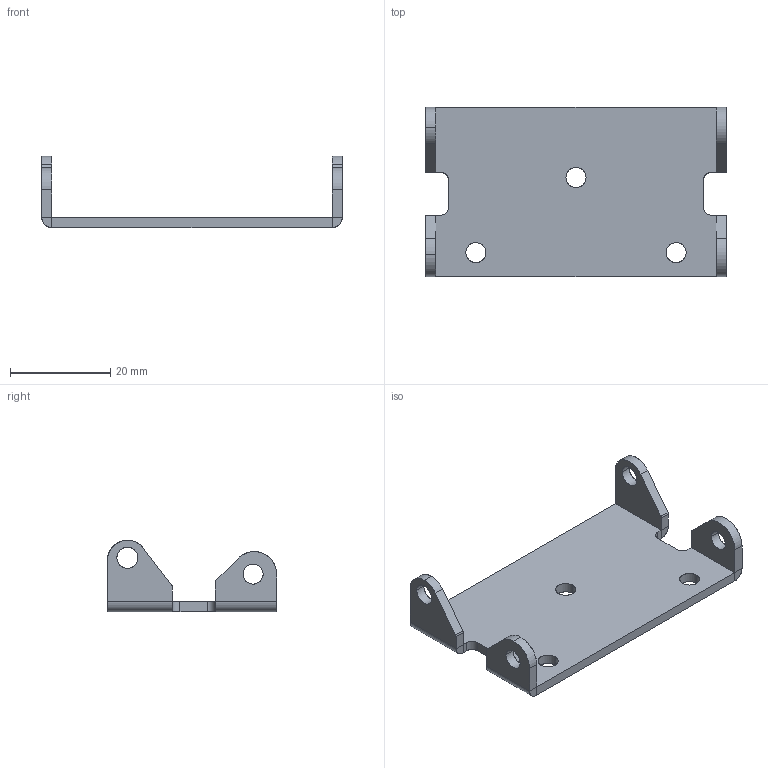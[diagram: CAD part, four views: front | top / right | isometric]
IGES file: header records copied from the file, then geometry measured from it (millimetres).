
Start section: SolidWorks IGES file using analytic representation for surfaces
Global section: file name: Z:\Mes documents\ATAO iges\Gamme GE\GE 1091\1091.020.00.IGS; native system: SolidWorks 2008; preprocessor: SolidWorks 2008; author: cbrechard; date: 110527.102359; units: millimetre
Bounding box: 60 x 33.8 x 14.25 mm (x, y, z)
Surface area: 5283.1 mm2 (no closed solid volume)
Topology: 0 solids, 0 shells, 70 faces, 984 edges, 984 vertices
Faces by surface type: bspline 38, revolution 32
